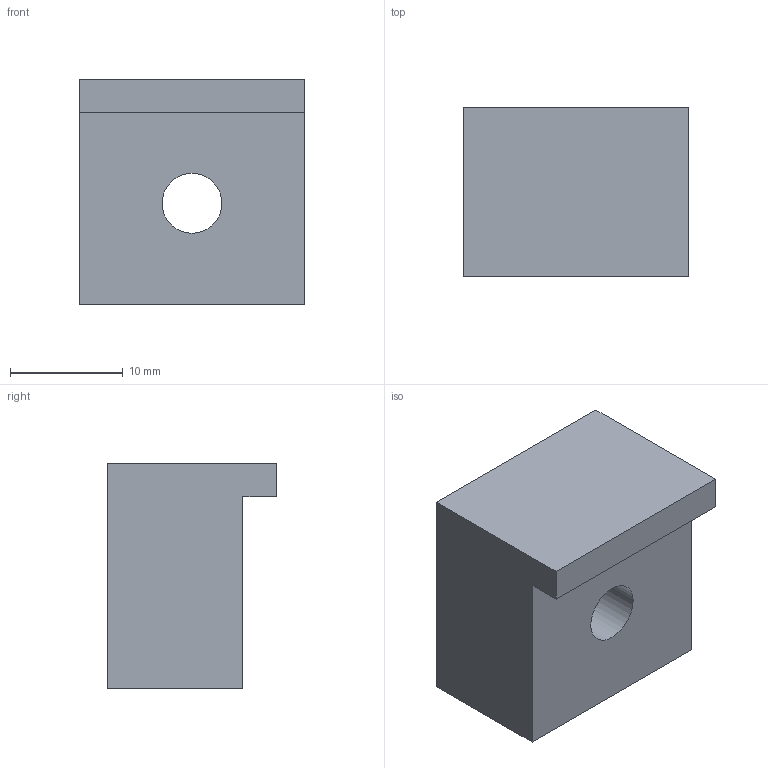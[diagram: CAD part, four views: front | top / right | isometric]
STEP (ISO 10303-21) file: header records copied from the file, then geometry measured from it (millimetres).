
FILE_DESCRIPTION((''),'2;1');
FILE_NAME('0000209224','2024-03-10T11:27:28',('Wyndorps'),(''),'CREO PARAMETRIC BY PTC INC, 2022484','CREO PARAMETRIC BY PTC INC, 2022484','');
FILE_SCHEMA(('CONFIG_CONTROL_DESIGN'));
Length unit declared in the file: millimetre
Products named in the file (1): 0000209224
Bounding box: 20 x 15 x 20 mm (x, y, z)
Volume: 4131.5 mm3; surface area: 2196.9 mm2
Topology: 1 solids, 1 shells, 13 faces, 30 edges, 20 vertices
Faces by surface type: plane 9, cylinder 4
Entity records: 414 total; most frequent: DIRECTION 64, CARTESIAN_POINT 63, ORIENTED_EDGE 60, EDGE_CURVE 30, VECTOR 22, LINE 22, AXIS2_PLACEMENT_3D 21, VERTEX_POINT 20
